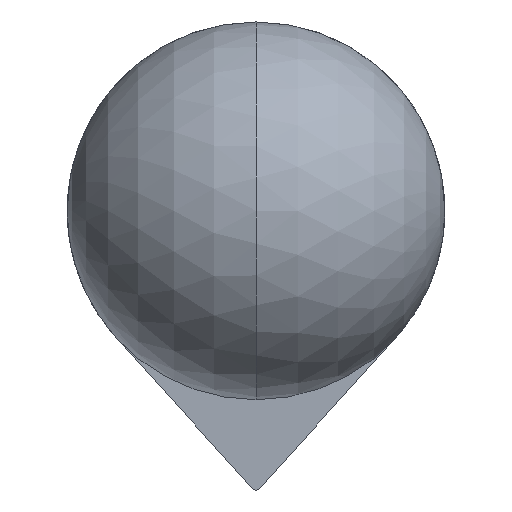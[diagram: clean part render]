
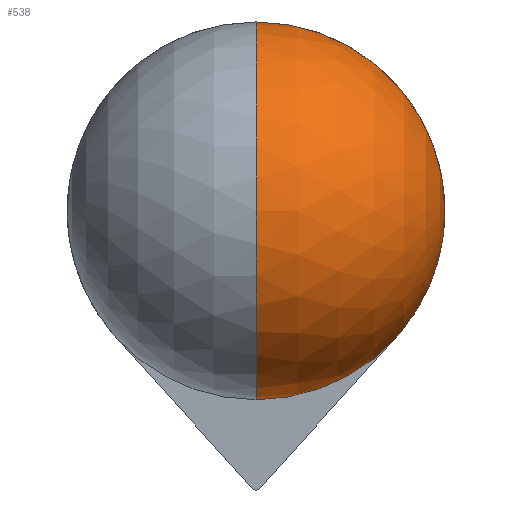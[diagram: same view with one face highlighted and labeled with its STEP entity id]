
A CAD part, front view. The second image highlights one B-rep face of the part: STEP entity #538.
In plain terms, the highlighted spherical face has radius 11.5 mm.
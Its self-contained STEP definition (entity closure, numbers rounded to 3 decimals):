
#1 = DIRECTION ( 'NONE',  ( 0., 0., 1. ) ) ;
#5 = EDGE_CURVE ( 'NONE', #490, #1099, #110, .T. ) ;
#90 = VERTEX_POINT ( 'NONE', #948 ) ;
#110 = CIRCLE ( 'NONE', #829, 11.5 ) ;
#154 = EDGE_CURVE ( 'NONE', #90, #429, #1158, .T. ) ;
#190 = DIRECTION ( 'NONE',  ( 1., 0., 0. ) ) ;
#236 = FACE_OUTER_BOUND ( 'NONE', #1083, .T. ) ;
#298 = AXIS2_PLACEMENT_3D ( 'NONE', #791, #611, #1151 ) ;
#341 = CARTESIAN_POINT ( 'NONE',  ( 0., 87.5, 0. ) ) ;
#352 = CARTESIAN_POINT ( 'NONE',  ( 0., 87.5, -11.5 ) ) ;
#374 = AXIS2_PLACEMENT_3D ( 'NONE', #553, #190, #915 ) ;
#382 = ORIENTED_EDGE ( 'NONE', *, *, #578, .T. ) ;
#429 = VERTEX_POINT ( 'NONE', #685 ) ;
#490 = VERTEX_POINT ( 'NONE', #352 ) ;
#538 = ADVANCED_FACE ( 'NONE', ( #236 ), #704, .T. ) ;
#553 = CARTESIAN_POINT ( 'NONE',  ( 0., 87.5, 0. ) ) ;
#578 = EDGE_CURVE ( 'NONE', #1099, #90, #659, .T. ) ;
#583 = CARTESIAN_POINT ( 'NONE',  ( 0., 87.5, 0. ) ) ;
#594 = ORIENTED_EDGE ( 'NONE', *, *, #5, .T. ) ;
#611 = DIRECTION ( 'NONE',  ( 0., 1., 0. ) ) ;
#659 = CIRCLE ( 'NONE', #298, 11.5 ) ;
#660 = CIRCLE ( 'NONE', #374, 11.5 ) ;
#670 = CARTESIAN_POINT ( 'NONE',  ( -8.53, 87.5, -7.713 ) ) ;
#672 = ORIENTED_EDGE ( 'NONE', *, *, #154, .T. ) ;
#685 = CARTESIAN_POINT ( 'NONE',  ( 0., 99., 0. ) ) ;
#694 = DIRECTION ( 'NONE',  ( 0., 0., -1. ) ) ;
#704 = SPHERICAL_SURFACE ( 'NONE', #1109, 11.5 ) ;
#731 = CARTESIAN_POINT ( 'NONE',  ( 0., 87.5, 0. ) ) ;
#766 = DIRECTION ( 'NONE',  ( 0., 0., 1. ) ) ;
#770 = DIRECTION ( 'NONE',  ( 0., 1., 0. ) ) ;
#791 = CARTESIAN_POINT ( 'NONE',  ( 0., 87.5, 0. ) ) ;
#829 = AXIS2_PLACEMENT_3D ( 'NONE', #583, #770, #766 ) ;
#915 = DIRECTION ( 'NONE',  ( 0., 0., -1. ) ) ;
#927 = ORIENTED_EDGE ( 'NONE', *, *, #993, .F. ) ;
#948 = CARTESIAN_POINT ( 'NONE',  ( 0., 87.5, 11.5 ) ) ;
#975 = DIRECTION ( 'NONE',  ( -1., 0., 0. ) ) ;
#993 = EDGE_CURVE ( 'NONE', #490, #429, #660, .T. ) ;
#1003 = DIRECTION ( 'NONE',  ( -1., 0., 0. ) ) ;
#1083 = EDGE_LOOP ( 'NONE', ( #382, #672, #927, #594 ) ) ;
#1098 = AXIS2_PLACEMENT_3D ( 'NONE', #731, #1003, #1 ) ;
#1099 = VERTEX_POINT ( 'NONE', #670 ) ;
#1109 = AXIS2_PLACEMENT_3D ( 'NONE', #341, #975, #694 ) ;
#1151 = DIRECTION ( 'NONE',  ( 0., 0., 1. ) ) ;
#1158 = CIRCLE ( 'NONE', #1098, 11.5 ) ;
